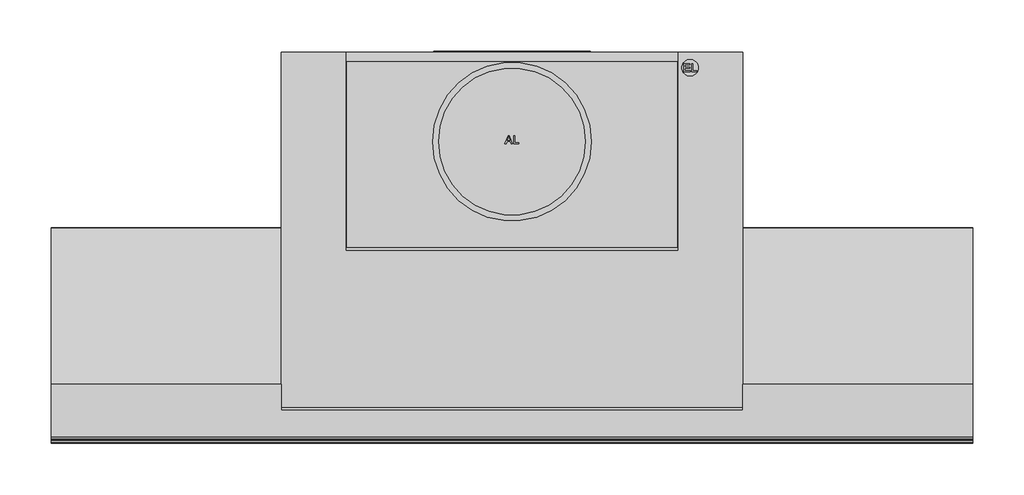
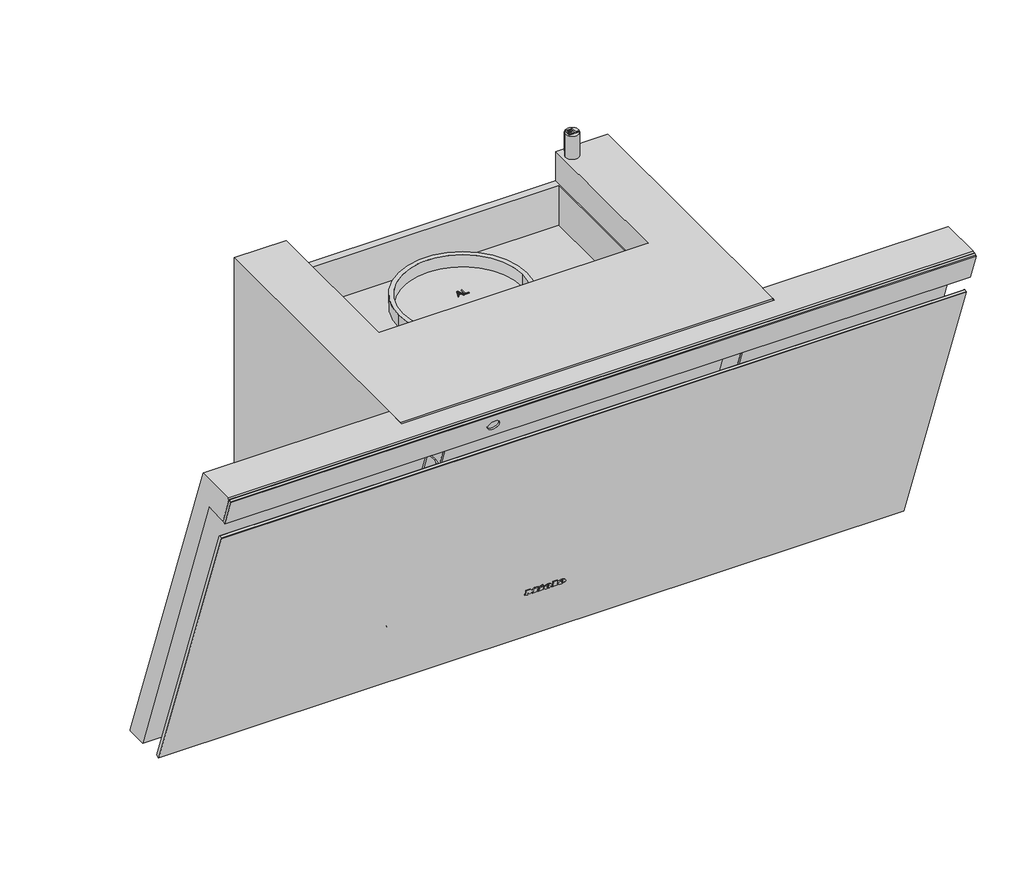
# Not in any storey: 1 proxy.
"""IFC4 building model written with IfcOpenShell, lengths in millimetres."""

from ifc_helpers import new_model, si_unit, origin, place, context, project, spatial, transform, mapped, element, save
from components import specialty_equipment_a2cc4324

model = new_model("IFC4")

# Units and contexts
model_context = context("Model", 3, world=origin())
ifc_project = project(units=[si_unit("LENGTHUNIT", "METRE", prefix="MILLI")], contexts=[model_context])

# Site, building
site = spatial("IfcSite", under=ifc_project)
building = spatial("IfcBuilding", under=site)

# Proxy
placement = place(None, origin())
specialty_equipment_shape = specialty_equipment_a2cc4324(model_context)
element("IfcBuildingElementProxy", 1, Name="12534210_CH_DAH4970_OBSW : 28H4970B_CH_12534210_DAH4970_OBSW", ObjectType="12534210_CH_DAH4970_OBSW : 28H4970B_CH_12534210_DAH4970_OBSW", at=placement, inside=building, context=model_context, shape_type="MappedRepresentation", body=[
    mapped(specialty_equipment_shape, transform((0.0, 0.0, 0.0), x_axis=(1.0, 0.0, 0.0), y_axis=(0.0, 1.0, 0.0), z_axis=(0.0, 0.0, 1.0))),
])

save(model, "model.ifc")
